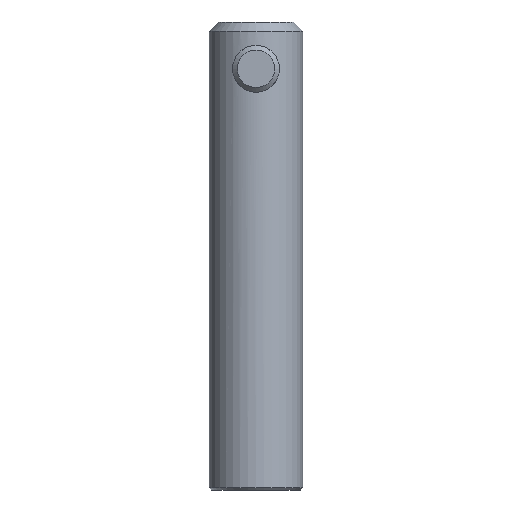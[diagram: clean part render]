
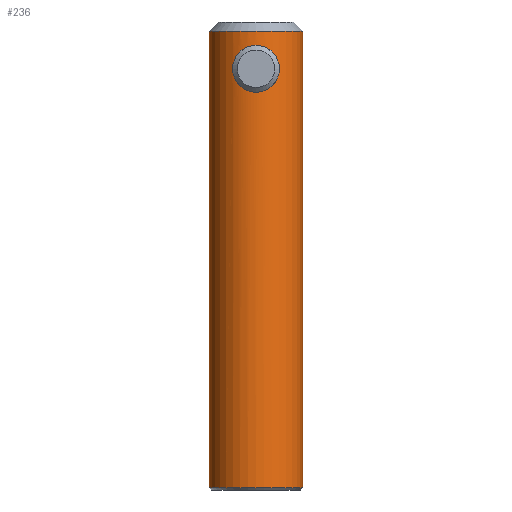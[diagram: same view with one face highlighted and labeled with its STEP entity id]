
A CAD part, left-side view. The second image highlights one B-rep face of the part: STEP entity #236.
In plain terms, the highlighted cylindrical face has radius 10 mm (diameter 20 mm), a full revolution.
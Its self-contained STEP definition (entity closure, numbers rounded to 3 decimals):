
#24=FACE_BOUND('',#51,.T.);
#26=B_SPLINE_CURVE_WITH_KNOTS('',3,(#378,#379,#380,#381,#382,#383,#384,
#385,#386,#387),.UNSPECIFIED.,.F.,.F.,(4,2,2,2,4),(2.306,2.498,
2.69,2.883,3.075),.UNSPECIFIED.);
#27=B_SPLINE_CURVE_WITH_KNOTS('',3,(#389,#390,#391,#392,#393,#394,#395,
#396,#397,#398),.UNSPECIFIED.,.F.,.F.,(4,2,2,2,4),(0.,0.192,
0.385,0.577,0.769),.UNSPECIFIED.);
#28=B_SPLINE_CURVE_WITH_KNOTS('',3,(#400,#401,#402,#403,#404,#405,#406,
#407,#408,#409,#410,#411,#412,#413,#414,#415,#416,#417),.UNSPECIFIED.,.F.,
 .F.,(4,2,2,2,2,2,2,2,4),(0.769,0.961,1.153,
1.345,1.538,1.73,1.922,2.114,
2.306),.UNSPECIFIED.);
#29=B_SPLINE_CURVE_WITH_KNOTS('',3,(#419,#420,#421,#422,#423,#424,#425,
#426,#427,#428,#429,#430,#431,#432,#433,#434,#435,#436,#437,#438,#439,#440,
#441,#442,#443,#444,#445,#446,#447,#448,#449,#450,#451,#452),
 .UNSPECIFIED.,.T.,.F.,(4,2,2,2,2,2,2,2,2,2,2,2,2,2,2,2,4),(0.,0.192,
0.385,0.577,0.769,0.961,
1.153,1.345,1.538,1.73,1.922,
2.114,2.306,2.498,2.69,2.883,
3.075),.UNSPECIFIED.);
#30=CYLINDRICAL_SURFACE('',#274,10.);
#34=FACE_OUTER_BOUND('',#50,.T.);
#50=EDGE_LOOP('',(#171,#172,#173,#174,#175,#176,#177,#178,#179));
#51=EDGE_LOOP('',(#180));
#68=LINE('',#376,#88);
#69=LINE('',#399,#89);
#88=VECTOR('',#308,10.);
#89=VECTOR('',#309,10.);
#108=CIRCLE('',#273,10.);
#109=CIRCLE('',#275,10.);
#116=VERTEX_POINT('',#369);
#117=VERTEX_POINT('',#373);
#118=VERTEX_POINT('',#375);
#119=VERTEX_POINT('',#377);
#120=VERTEX_POINT('',#388);
#121=VERTEX_POINT('',#418);
#137=EDGE_CURVE('',#116,#116,#108,.T.);
#138=EDGE_CURVE('',#117,#117,#109,.T.);
#139=EDGE_CURVE('',#117,#118,#68,.T.);
#140=EDGE_CURVE('',#118,#119,#26,.T.);
#141=EDGE_CURVE('',#119,#120,#27,.T.);
#142=EDGE_CURVE('',#120,#116,#69,.T.);
#143=EDGE_CURVE('',#120,#118,#28,.T.);
#144=EDGE_CURVE('',#121,#121,#29,.T.);
#171=ORIENTED_EDGE('',*,*,#138,.F.);
#172=ORIENTED_EDGE('',*,*,#139,.T.);
#173=ORIENTED_EDGE('',*,*,#140,.T.);
#174=ORIENTED_EDGE('',*,*,#141,.T.);
#175=ORIENTED_EDGE('',*,*,#142,.T.);
#176=ORIENTED_EDGE('',*,*,#137,.F.);
#177=ORIENTED_EDGE('',*,*,#142,.F.);
#178=ORIENTED_EDGE('',*,*,#143,.T.);
#179=ORIENTED_EDGE('',*,*,#139,.F.);
#180=ORIENTED_EDGE('',*,*,#144,.T.);
#236=ADVANCED_FACE('',(#34,#24),#30,.T.);
#273=AXIS2_PLACEMENT_3D('',#371,#302,#303);
#274=AXIS2_PLACEMENT_3D('',#372,#304,#305);
#275=AXIS2_PLACEMENT_3D('',#374,#306,#307);
#302=DIRECTION('center_axis',(0.,0.,-1.));
#303=DIRECTION('ref_axis',(-1.,0.,0.));
#304=DIRECTION('center_axis',(0.,0.,1.));
#305=DIRECTION('ref_axis',(-1.,0.,0.));
#306=DIRECTION('center_axis',(0.,0.,1.));
#307=DIRECTION('ref_axis',(-1.,0.,0.));
#308=DIRECTION('',(0.,0.,-1.));
#309=DIRECTION('',(0.,0.,-1.));
#369=CARTESIAN_POINT('',(10.,0.,0.5));
#371=CARTESIAN_POINT('Origin',(0.,0.,0.5));
#372=CARTESIAN_POINT('Origin',(0.,0.,0.));
#373=CARTESIAN_POINT('',(10.,0.,98.));
#374=CARTESIAN_POINT('Origin',(0.,0.,98.));
#375=CARTESIAN_POINT('',(10.,0.,95.));
#376=CARTESIAN_POINT('',(10.,0.,0.));
#377=CARTESIAN_POINT('',(8.66,5.,90.));
#378=CARTESIAN_POINT('Ctrl Pts',(10.,0.,95.));
#379=CARTESIAN_POINT('Ctrl Pts',(10.,0.64,95.));
#380=CARTESIAN_POINT('Ctrl Pts',(9.933,1.315,94.87));
#381=CARTESIAN_POINT('Ctrl Pts',(9.691,2.544,94.356));
#382=CARTESIAN_POINT('Ctrl Pts',(9.519,3.098,93.973));
#383=CARTESIAN_POINT('Ctrl Pts',(9.189,3.974,93.097));
#384=CARTESIAN_POINT('Ctrl Pts',(9.006,4.356,92.543));
#385=CARTESIAN_POINT('Ctrl Pts',(8.739,4.869,91.316));
#386=CARTESIAN_POINT('Ctrl Pts',(8.66,5.,90.642));
#387=CARTESIAN_POINT('Ctrl Pts',(8.66,5.,90.));
#388=CARTESIAN_POINT('',(10.,0.,85.));
#389=CARTESIAN_POINT('Ctrl Pts',(8.66,5.,90.));
#390=CARTESIAN_POINT('Ctrl Pts',(8.66,5.,89.358));
#391=CARTESIAN_POINT('Ctrl Pts',(8.739,4.869,88.684));
#392=CARTESIAN_POINT('Ctrl Pts',(9.006,4.356,87.457));
#393=CARTESIAN_POINT('Ctrl Pts',(9.189,3.974,86.903));
#394=CARTESIAN_POINT('Ctrl Pts',(9.519,3.098,86.027));
#395=CARTESIAN_POINT('Ctrl Pts',(9.691,2.544,85.644));
#396=CARTESIAN_POINT('Ctrl Pts',(9.933,1.315,85.13));
#397=CARTESIAN_POINT('Ctrl Pts',(10.,0.64,85.));
#398=CARTESIAN_POINT('Ctrl Pts',(10.,0.,85.));
#399=CARTESIAN_POINT('',(10.,0.,0.));
#400=CARTESIAN_POINT('Ctrl Pts',(10.,0.,85.));
#401=CARTESIAN_POINT('Ctrl Pts',(10.,-0.64,85.));
#402=CARTESIAN_POINT('Ctrl Pts',(9.933,-1.315,85.13));
#403=CARTESIAN_POINT('Ctrl Pts',(9.691,-2.544,85.644));
#404=CARTESIAN_POINT('Ctrl Pts',(9.519,-3.098,86.027));
#405=CARTESIAN_POINT('Ctrl Pts',(9.189,-3.974,86.903));
#406=CARTESIAN_POINT('Ctrl Pts',(9.006,-4.356,87.457));
#407=CARTESIAN_POINT('Ctrl Pts',(8.739,-4.869,88.684));
#408=CARTESIAN_POINT('Ctrl Pts',(8.66,-5.,89.358));
#409=CARTESIAN_POINT('Ctrl Pts',(8.66,-5.,90.642));
#410=CARTESIAN_POINT('Ctrl Pts',(8.739,-4.869,91.316));
#411=CARTESIAN_POINT('Ctrl Pts',(9.006,-4.356,92.543));
#412=CARTESIAN_POINT('Ctrl Pts',(9.189,-3.974,93.097));
#413=CARTESIAN_POINT('Ctrl Pts',(9.519,-3.098,93.973));
#414=CARTESIAN_POINT('Ctrl Pts',(9.691,-2.544,94.356));
#415=CARTESIAN_POINT('Ctrl Pts',(9.933,-1.315,94.87));
#416=CARTESIAN_POINT('Ctrl Pts',(10.,-0.64,95.));
#417=CARTESIAN_POINT('Ctrl Pts',(10.,0.,95.));
#418=CARTESIAN_POINT('',(-8.66,5.,90.));
#419=CARTESIAN_POINT('Ctrl Pts',(-8.66,5.,90.));
#420=CARTESIAN_POINT('Ctrl Pts',(-8.66,5.,90.642));
#421=CARTESIAN_POINT('Ctrl Pts',(-8.739,4.869,91.316));
#422=CARTESIAN_POINT('Ctrl Pts',(-9.006,4.356,92.543));
#423=CARTESIAN_POINT('Ctrl Pts',(-9.189,3.974,93.097));
#424=CARTESIAN_POINT('Ctrl Pts',(-9.519,3.098,93.973));
#425=CARTESIAN_POINT('Ctrl Pts',(-9.691,2.544,94.356));
#426=CARTESIAN_POINT('Ctrl Pts',(-9.933,1.315,94.87));
#427=CARTESIAN_POINT('Ctrl Pts',(-10.,0.64,95.));
#428=CARTESIAN_POINT('Ctrl Pts',(-10.,-0.64,95.));
#429=CARTESIAN_POINT('Ctrl Pts',(-9.933,-1.315,94.87));
#430=CARTESIAN_POINT('Ctrl Pts',(-9.691,-2.544,94.356));
#431=CARTESIAN_POINT('Ctrl Pts',(-9.519,-3.098,93.973));
#432=CARTESIAN_POINT('Ctrl Pts',(-9.189,-3.974,93.097));
#433=CARTESIAN_POINT('Ctrl Pts',(-9.006,-4.356,92.543));
#434=CARTESIAN_POINT('Ctrl Pts',(-8.739,-4.869,91.316));
#435=CARTESIAN_POINT('Ctrl Pts',(-8.66,-5.,90.642));
#436=CARTESIAN_POINT('Ctrl Pts',(-8.66,-5.,89.358));
#437=CARTESIAN_POINT('Ctrl Pts',(-8.739,-4.869,88.684));
#438=CARTESIAN_POINT('Ctrl Pts',(-9.006,-4.356,87.457));
#439=CARTESIAN_POINT('Ctrl Pts',(-9.189,-3.974,86.903));
#440=CARTESIAN_POINT('Ctrl Pts',(-9.519,-3.098,86.027));
#441=CARTESIAN_POINT('Ctrl Pts',(-9.691,-2.544,85.644));
#442=CARTESIAN_POINT('Ctrl Pts',(-9.933,-1.315,85.13));
#443=CARTESIAN_POINT('Ctrl Pts',(-10.,-0.64,85.));
#444=CARTESIAN_POINT('Ctrl Pts',(-10.,0.64,85.));
#445=CARTESIAN_POINT('Ctrl Pts',(-9.933,1.315,85.13));
#446=CARTESIAN_POINT('Ctrl Pts',(-9.691,2.544,85.644));
#447=CARTESIAN_POINT('Ctrl Pts',(-9.519,3.098,86.027));
#448=CARTESIAN_POINT('Ctrl Pts',(-9.189,3.974,86.903));
#449=CARTESIAN_POINT('Ctrl Pts',(-9.006,4.356,87.457));
#450=CARTESIAN_POINT('Ctrl Pts',(-8.739,4.869,88.684));
#451=CARTESIAN_POINT('Ctrl Pts',(-8.66,5.,89.358));
#452=CARTESIAN_POINT('Ctrl Pts',(-8.66,5.,90.));
